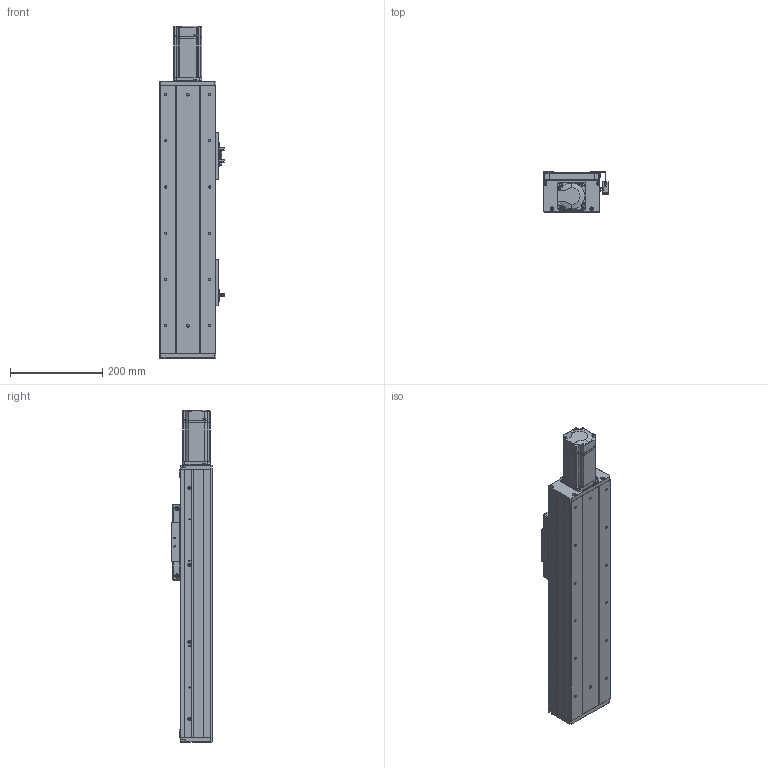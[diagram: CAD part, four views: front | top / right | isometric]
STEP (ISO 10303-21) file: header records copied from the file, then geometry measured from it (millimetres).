
FILE_DESCRIPTION (( 'STEP AP203' ), '1' );
FILE_NAME ('RY120F-L1620-300-MK.SLDASM_300.step', '2021-03-02T06:01:38', ( '盈信电脑' ), ( '东莞市道滘镇水果街19号' ), 'SwSTEP 2.0', 'SolidWorks 2012', '' );
FILE_SCHEMA (( 'CONFIG_CONTROL_DESIGN' ));
Length unit declared in the file: millimetre
Products named in the file (18): RY120F-臏賑輸 16蹟譫; FY120F詩湍揤踡輸; RY120F-L1620-300-MK.SLDASM_300; 滅袉蝶18-28; 覜茼ん672; 672嫖萇羲壽假蚾釱; RY80俋离覜茼え; RY120F-詩湍幗謫粣; RY120F綴裔啣(臏璃ㄘ; 滅袉蝶18-24; RY120F祥凄詩滅鳥裔; RY120F-臏賑輸奻釱; 侂狟400W侜督萇儂; 15; RY120F眻蟀ヶ裔啣; RY120F-300-倰第裔啣; RY120F-300-倰第菁釱; RY120F滅鳥詩湍-300-MK
Assembly tree (23 placements, depth 3):
  RY120F-L1620-300-MK.SLDASM_300
    RY120F-300-倰第菁釱
    RY120F-300-倰第裔啣  x2
    RY120F滅鳥詩湍-300-MK
    RY120F-臏賑輸奻釱
    侂狟400W侜督萇儂
      15
    RY120F眻蟀ヶ裔啣
    RY120F祥凄詩滅鳥裔
    滅袉蝶18-24
    RY120F綴裔啣(臏璃ㄘ
    RY120F-詩湍幗謫粣
    覜茼ん672  x3
    672嫖萇羲壽假蚾釱  x2
    RY80俋离覜茼え
    FY120F詩湍揤踡輸  x2
    RY120F-臏賑輸 16蹟譫
    滅袉蝶18-28  x2
Bounding box: 140.35 x 89 x 718.5 mm (x, y, z)
Volume: 2438850.7 mm3; surface area: 825156.7 mm2
Topology: 22 solids, 22 shells, 1873 faces, 5049 edges, 3249 vertices
Faces by surface type: plane 858, cylinder 814, cone 183, bspline 18
Entity records: 51883 total; most frequent: CARTESIAN_POINT 9289, DIRECTION 8781, ORIENTED_EDGE 8234, EDGE_CURVE 4117, AXIS2_PLACEMENT_3D 3155, VERTEX_POINT 2693, LINE 2471, VECTOR 2471
